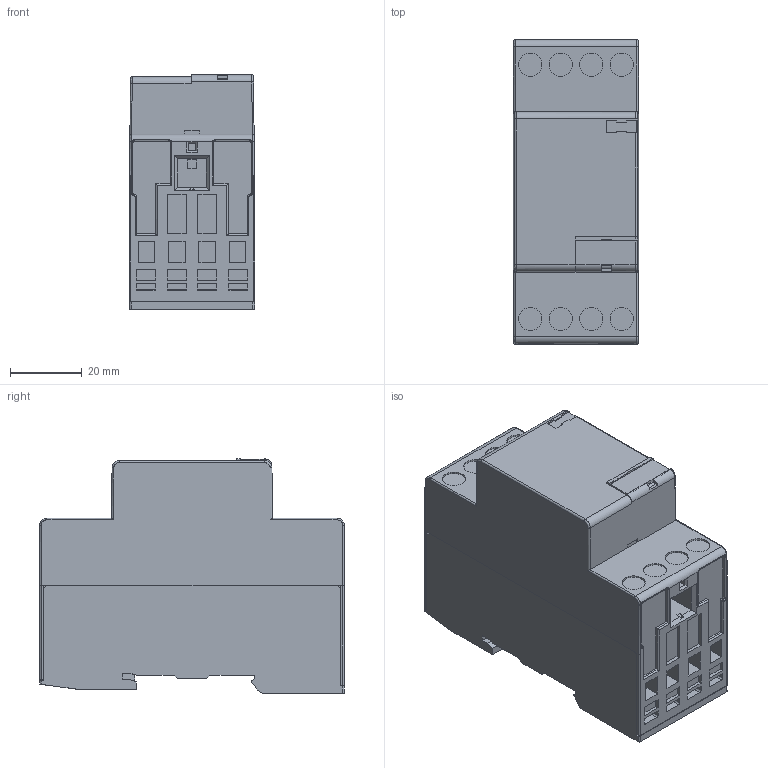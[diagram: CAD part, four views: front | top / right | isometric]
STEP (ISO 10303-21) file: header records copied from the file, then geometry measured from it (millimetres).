
FILE_DESCRIPTION (( 'STEP AP214' ), '1' );
FILE_NAME ('RIC25-040_-220_-400.STEP', '2024-05-01T06:06:23', ( '' ), ( '' ), 'SwSTEP 2.0', 'SolidWorks 2022', '' );
FILE_SCHEMA (( 'AUTOMOTIVE_DESIGN' ));
Length unit declared in the file: millimetre
Products named in the file (1): RIC25-040_-220_-400
Bounding box: 35 x 85 x 65.4 mm (x, y, z)
Volume: 152658.5 mm3; surface area: 32074.5 mm2
Topology: 1 solids, 7 shells, 885 faces, 2463 edges, 1592 vertices
Faces by surface type: plane 736, cylinder 117, bspline 32
Entity records: 39138 total; most frequent: CARTESIAN_POINT 7049, ORIENTED_EDGE 4926, DIRECTION 4146, EDGE_CURVE 2463, VECTOR 2140, LINE 2140, VERTEX_POINT 1592, AXIS2_PLACEMENT_3D 1003
